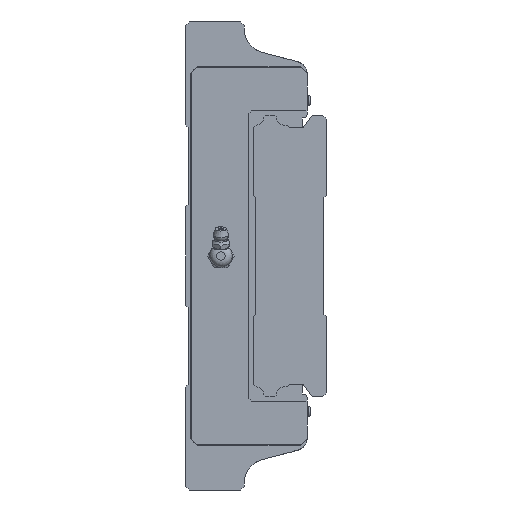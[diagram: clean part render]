
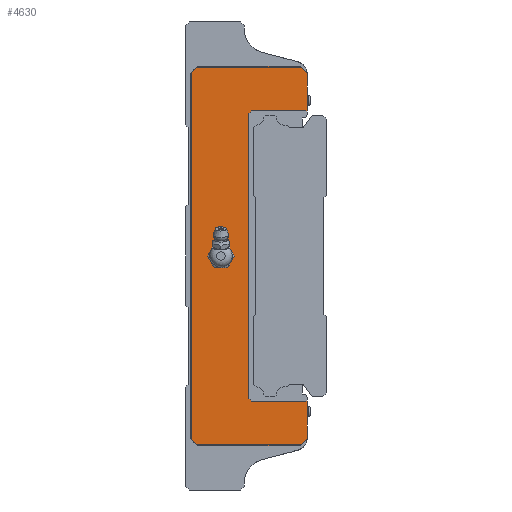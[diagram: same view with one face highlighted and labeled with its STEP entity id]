
A CAD part, left-side view. The second image highlights one B-rep face of the part: STEP entity #4630.
In plain terms, the highlighted planar face has unit normal (-1, 0, 0).
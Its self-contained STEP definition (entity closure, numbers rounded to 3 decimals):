
#178=CIRCLE('',#5003,4.864);
#768=ORIENTED_EDGE('',*,*,#1858,.T.);
#769=ORIENTED_EDGE('',*,*,#1859,.F.);
#770=ORIENTED_EDGE('',*,*,#1860,.F.);
#771=ORIENTED_EDGE('',*,*,#1840,.F.);
#772=ORIENTED_EDGE('',*,*,#1819,.F.);
#773=ORIENTED_EDGE('',*,*,#1815,.F.);
#774=ORIENTED_EDGE('',*,*,#1808,.F.);
#775=ORIENTED_EDGE('',*,*,#1861,.F.);
#776=ORIENTED_EDGE('',*,*,#1793,.F.);
#777=ORIENTED_EDGE('',*,*,#1832,.F.);
#778=ORIENTED_EDGE('',*,*,#1829,.F.);
#779=ORIENTED_EDGE('',*,*,#1842,.F.);
#780=ORIENTED_EDGE('',*,*,#1862,.F.);
#781=ORIENTED_EDGE('',*,*,#1863,.F.);
#782=ORIENTED_EDGE('',*,*,#1864,.T.);
#783=ORIENTED_EDGE('',*,*,#1865,.T.);
#784=ORIENTED_EDGE('',*,*,#1866,.T.);
#785=ORIENTED_EDGE('',*,*,#1867,.T.);
#786=ORIENTED_EDGE('',*,*,#1868,.T.);
#1793=EDGE_CURVE('',#2384,#2385,#2826,.T.);
#1808=EDGE_CURVE('',#2399,#2400,#2841,.T.);
#1815=EDGE_CURVE('',#2400,#2405,#2848,.T.);
#1819=EDGE_CURVE('',#2405,#2407,#2852,.T.);
#1829=EDGE_CURVE('',#2416,#2417,#2862,.T.);
#1832=EDGE_CURVE('',#2417,#2384,#2865,.T.);
#1840=EDGE_CURVE('',#2407,#2419,#2873,.T.);
#1842=EDGE_CURVE('',#2422,#2416,#2875,.T.);
#1858=EDGE_CURVE('',#2435,#2435,#178,.T.);
#1859=EDGE_CURVE('',#2436,#2437,#2890,.T.);
#1860=EDGE_CURVE('',#2419,#2436,#2891,.T.);
#1861=EDGE_CURVE('',#2385,#2399,#2892,.T.);
#1862=EDGE_CURVE('',#2438,#2422,#2893,.T.);
#1863=EDGE_CURVE('',#2439,#2438,#2894,.T.);
#1864=EDGE_CURVE('',#2439,#2440,#2895,.T.);
#1865=EDGE_CURVE('',#2440,#2441,#2896,.T.);
#1866=EDGE_CURVE('',#2441,#2442,#2897,.T.);
#1867=EDGE_CURVE('',#2442,#2443,#2898,.T.);
#1868=EDGE_CURVE('',#2443,#2437,#2899,.T.);
#2384=VERTEX_POINT('',#7046);
#2385=VERTEX_POINT('',#7048);
#2399=VERTEX_POINT('',#7077);
#2400=VERTEX_POINT('',#7079);
#2405=VERTEX_POINT('',#7093);
#2407=VERTEX_POINT('',#7100);
#2416=VERTEX_POINT('',#7119);
#2417=VERTEX_POINT('',#7121);
#2419=VERTEX_POINT('',#7132);
#2422=VERTEX_POINT('',#7142);
#2435=VERTEX_POINT('',#7174);
#2436=VERTEX_POINT('',#7176);
#2437=VERTEX_POINT('',#7177);
#2438=VERTEX_POINT('',#7181);
#2439=VERTEX_POINT('',#7183);
#2440=VERTEX_POINT('',#7185);
#2441=VERTEX_POINT('',#7187);
#2442=VERTEX_POINT('',#7189);
#2443=VERTEX_POINT('',#7191);
#2826=LINE('',#7047,#3250);
#2841=LINE('',#7078,#3265);
#2848=LINE('',#7092,#3272);
#2852=LINE('',#7099,#3276);
#2862=LINE('',#7120,#3286);
#2865=LINE('',#7125,#3289);
#2873=LINE('',#7139,#3297);
#2875=LINE('',#7144,#3299);
#2890=LINE('',#7175,#3314);
#2891=LINE('',#7178,#3315);
#2892=LINE('',#7179,#3316);
#2893=LINE('',#7180,#3317);
#2894=LINE('',#7182,#3318);
#2895=LINE('',#7184,#3319);
#2896=LINE('',#7186,#3320);
#2897=LINE('',#7188,#3321);
#2898=LINE('',#7190,#3322);
#2899=LINE('',#7192,#3323);
#3250=VECTOR('',#5711,1000.);
#3265=VECTOR('',#5728,1000.);
#3272=VECTOR('',#5739,1000.);
#3276=VECTOR('',#5745,1000.);
#3286=VECTOR('',#5757,1000.);
#3289=VECTOR('',#5762,1000.);
#3297=VECTOR('',#5774,1000.);
#3299=VECTOR('',#5778,1000.);
#3314=VECTOR('',#5801,1000.);
#3315=VECTOR('',#5802,1000.);
#3316=VECTOR('',#5803,1000.);
#3317=VECTOR('',#5804,1000.);
#3318=VECTOR('',#5805,1000.);
#3319=VECTOR('',#5806,1000.);
#3320=VECTOR('',#5807,1000.);
#3321=VECTOR('',#5808,1000.);
#3322=VECTOR('',#5809,1000.);
#3323=VECTOR('',#5810,1000.);
#3690=EDGE_LOOP('',(#768));
#3691=EDGE_LOOP('',(#769,#770,#771,#772,#773,#774,#775,#776,#777,#778,#779,
#780,#781,#782,#783,#784,#785,#786));
#4099=FACE_BOUND('',#3690,.T.);
#4100=FACE_BOUND('',#3691,.T.);
#4421=PLANE('',#5002);
#4630=ADVANCED_FACE('',(#4099,#4100),#4421,.F.);
#5002=AXIS2_PLACEMENT_3D('',#7172,#5797,#5798);
#5003=AXIS2_PLACEMENT_3D('',#7173,#5799,#5800);
#5711=DIRECTION('',(0.,0.707,0.707));
#5728=DIRECTION('',(0.,-0.707,0.707));
#5739=DIRECTION('',(0.,-1.,0.));
#5745=DIRECTION('',(0.,-0.707,-0.707));
#5757=DIRECTION('',(0.,0.707,-0.707));
#5762=DIRECTION('',(0.,1.,0.));
#5774=DIRECTION('',(0.,0.,-1.));
#5778=DIRECTION('',(0.,0.,-1.));
#5797=DIRECTION('',(1.,0.,0.));
#5798=DIRECTION('',(0.,0.,-1.));
#5799=DIRECTION('',(1.,0.,0.));
#5800=DIRECTION('',(0.,0.,-1.));
#5801=DIRECTION('',(0.,0.,-1.));
#5802=DIRECTION('',(0.,1.,0.));
#5803=DIRECTION('',(0.,0.,1.));
#5804=DIRECTION('',(0.,-1.,0.));
#5805=DIRECTION('',(0.,0.,-1.));
#5806=DIRECTION('',(0.,1.,0.));
#5807=DIRECTION('',(0.,0.707,0.707));
#5808=DIRECTION('',(0.,0.,1.));
#5809=DIRECTION('',(0.,-0.707,0.707));
#5810=DIRECTION('',(0.,-1.,0.));
#7046=CARTESIAN_POINT('',(-76.95,48.5,-81.));
#7047=CARTESIAN_POINT('',(-76.95,48.5,-81.));
#7048=CARTESIAN_POINT('',(-76.95,51.5,-78.));
#7077=CARTESIAN_POINT('',(-76.95,51.5,78.));
#7078=CARTESIAN_POINT('',(-76.95,51.5,78.));
#7079=CARTESIAN_POINT('',(-76.95,48.5,81.));
#7092=CARTESIAN_POINT('',(-76.95,53.5,81.));
#7093=CARTESIAN_POINT('',(-76.95,4.6,81.));
#7099=CARTESIAN_POINT('',(-76.95,4.6,81.));
#7100=CARTESIAN_POINT('',(-76.95,1.5,77.9));
#7119=CARTESIAN_POINT('',(-76.95,1.5,-77.9));
#7120=CARTESIAN_POINT('',(-76.95,1.5,-77.9));
#7121=CARTESIAN_POINT('',(-76.95,4.6,-81.));
#7125=CARTESIAN_POINT('',(-76.95,0.,-81.));
#7132=CARTESIAN_POINT('',(-76.95,1.5,70.9));
#7139=CARTESIAN_POINT('',(-76.95,1.5,77.282));
#7142=CARTESIAN_POINT('',(-76.95,1.5,-70.9));
#7144=CARTESIAN_POINT('',(-76.95,1.5,77.282));
#7172=CARTESIAN_POINT('',(-76.95,0.,0.));
#7173=CARTESIAN_POINT('',(-76.95,38.5,0.));
#7174=CARTESIAN_POINT('',(-76.95,38.5,-4.864));
#7175=CARTESIAN_POINT('',(-76.95,1.7,0.));
#7176=CARTESIAN_POINT('',(-76.95,1.7,70.9));
#7177=CARTESIAN_POINT('',(-76.95,1.7,62.));
#7178=CARTESIAN_POINT('',(-76.95,0.,70.9));
#7179=CARTESIAN_POINT('',(-76.95,51.5,-78.));
#7180=CARTESIAN_POINT('',(-76.95,0.,-70.9));
#7181=CARTESIAN_POINT('',(-76.95,1.7,-70.9));
#7182=CARTESIAN_POINT('',(-76.95,1.7,0.));
#7183=CARTESIAN_POINT('',(-76.95,1.7,-62.));
#7184=CARTESIAN_POINT('',(-76.95,1.5,-62.));
#7185=CARTESIAN_POINT('',(-76.95,25.5,-62.));
#7186=CARTESIAN_POINT('',(-76.95,25.5,-62.));
#7187=CARTESIAN_POINT('',(-76.95,26.5,-61.));
#7188=CARTESIAN_POINT('',(-76.95,26.5,-61.));
#7189=CARTESIAN_POINT('',(-76.95,26.5,61.));
#7190=CARTESIAN_POINT('',(-76.95,26.5,61.));
#7191=CARTESIAN_POINT('',(-76.95,25.5,62.));
#7192=CARTESIAN_POINT('',(-76.95,25.5,62.));
